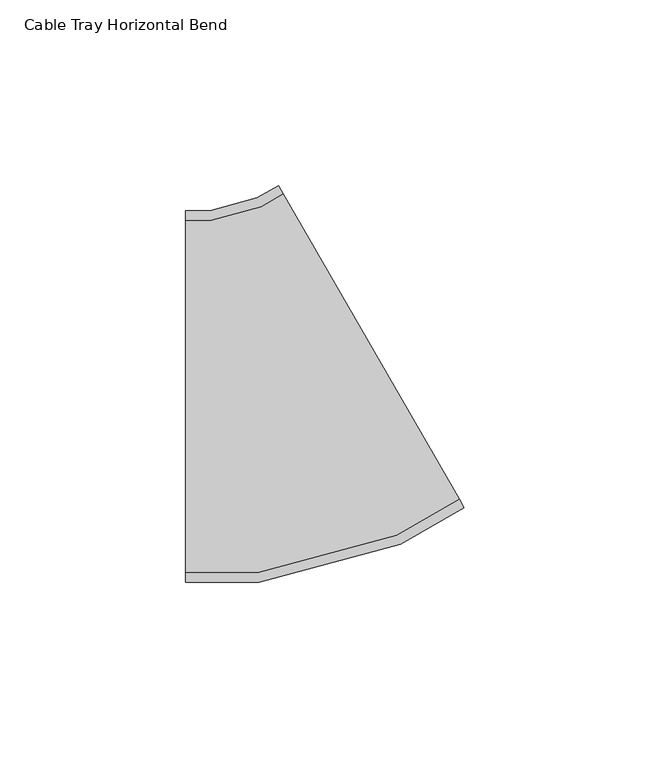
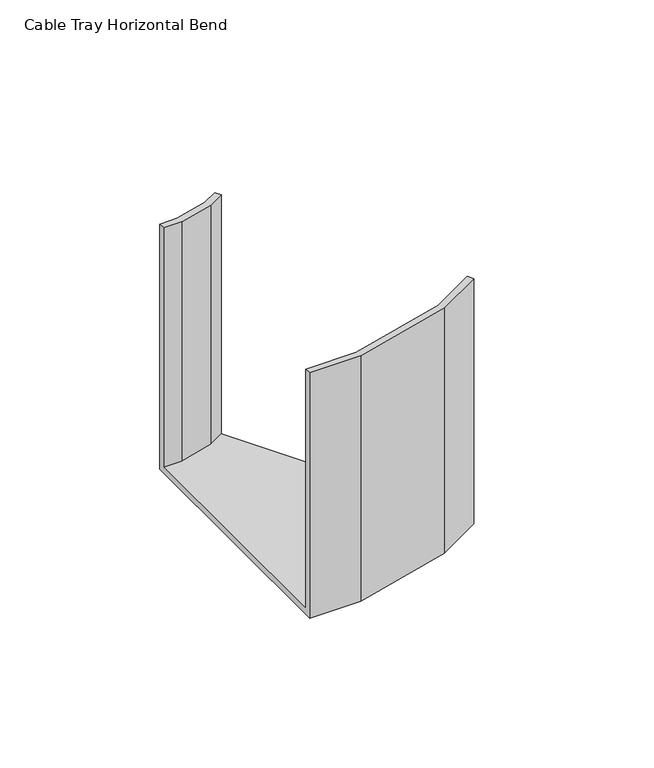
"""IFC4 building model written with IfcOpenShell, lengths in millimetres: cable carrier fitting geometry, Cable Tray Horizontal Bend : ELEC_ELV_TKG_N2402."""

from ifc_helpers import new_model, si_unit, origin, place, context, project, spatial, faceted_brep, source, transform, mapped, element, save


def cable_tray_horizontal_bend_c8e18077(model_context):
    return source(origin(), model_context, "Body", "Brep", [
        faceted_brep([(-26.7949192, -50.0, -50.0), (-26.7949192, -50.0, 50.0), (-26.7949192, -47.46, 50.0), (-26.7949192, -47.46, -47.46), (-26.7949192, 47.46, -47.46), (-26.7949192, 47.46, 50.0), (-26.7949192, 50.0, 50.0), (-26.7949192, 50.0, -50.0), (48.2050807, -29.9038106, -50.0), (-1.7949192, 56.6987298, -50.0), (-1.7949192, 56.6987298, 50.0), (-0.5249192, 54.4990253, 50.0), (-0.5249192, 54.4990253, -47.46), (46.9350807, -27.7041061, -47.46), (46.9350807, -27.7041061, 50.0), (48.2050807, -29.9038106, 50.0), (-7.0470446, -50.0, -50.0), (-7.0470446, -50.0, 50.0), (31.1029196, -39.7777479, 50.0), (30.1225162, -37.4108447, 50.0), (-7.3814419, -47.46, 50.0), (-7.3814419, -47.46, -47.46), (30.1225162, -37.4108447, -47.46), (-6.5152362, 51.0405142, -47.46), (-19.877897, 47.46, -47.46), (-19.877897, 47.46, 50.0), (-6.5152362, 51.0405142, 50.0), (-7.4956396, 53.4074174, 50.0), (-20.2122944, 50.0, 50.0), (-20.2122944, 50.0, -50.0), (-7.4956396, 53.4074174, -50.0), (31.1029196, -39.7777479, -50.0)], [[[0, 1, 2, 3, 4, 5, 6, 7]], [[8, 9, 10, 11, 12, 13, 14, 15]], [[1, 0, 16, 17]], [[2, 1, 17, 18, 15, 14, 19, 20]], [[3, 2, 20, 21]], [[4, 3, 21, 22, 13, 12, 23, 24]], [[5, 4, 24, 25]], [[6, 5, 25, 26, 11, 10, 27, 28]], [[7, 6, 28, 29]], [[0, 7, 29, 30, 9, 8, 31, 16]], [[17, 16, 31, 18]], [[21, 20, 19, 22]], [[25, 24, 23, 26]], [[29, 28, 27, 30]], [[18, 31, 8, 15]], [[22, 19, 14, 13]], [[26, 23, 12, 11]], [[30, 27, 10, 9]]]),
    ])


if __name__ == "__main__":
    model = new_model("IFC4")
    model_context = context("Model", 3, world=origin())
    ifc_project = project(units=[si_unit("LENGTHUNIT", "METRE", prefix="MILLI")], contexts=[model_context])
    site = spatial("IfcSite", under=ifc_project)
    building = spatial("IfcBuilding", under=site)
    placement = place(None, origin())
    cable_tray_horizontal_bend_shape = cable_tray_horizontal_bend_c8e18077(model_context)
    element("IfcCableCarrierFitting", 1, ObjectType="Cable Tray Horizontal Bend : ELEC_ELV_TKG_N2402", at=placement, inside=building, context=model_context, shape_type="MappedRepresentation", body=[
        mapped(cable_tray_horizontal_bend_shape, transform((0.0, 0.0, 0.0), x_axis=(1.0, 0.0, 0.0), y_axis=(0.0, 1.0, 0.0), z_axis=(0.0, 0.0, 1.0))),
    ])
    save(model, "model.ifc")
